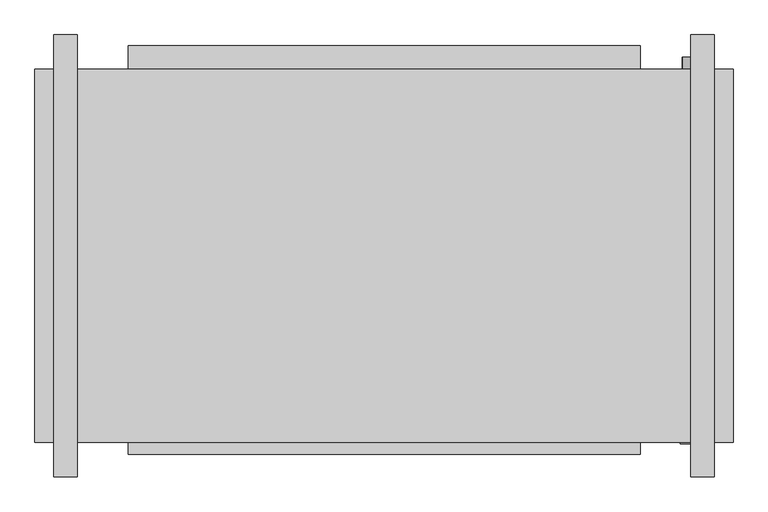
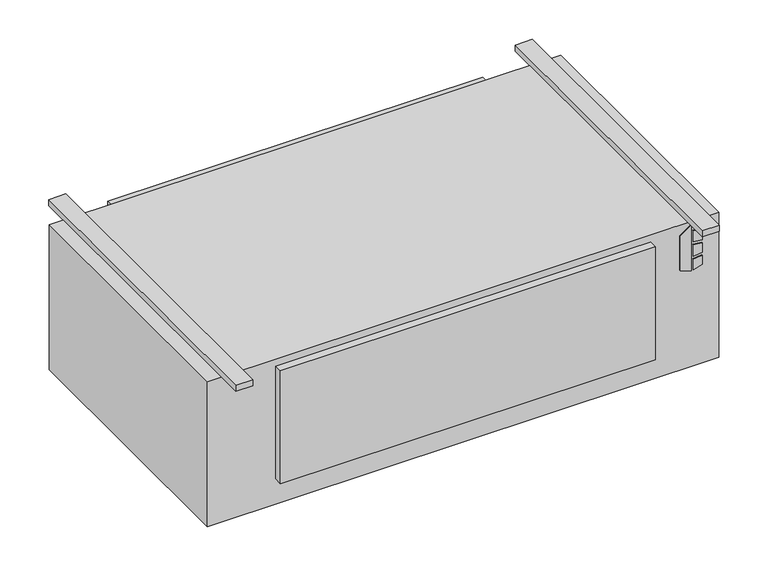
"""IFC4 building model written with IfcOpenShell, lengths in millimetres: proxy geometry, Concealed_High_Capacity_Horizontal_Cabinet_Fan_Coil_Unit_-_HXY_-_IEC_-_4-Pipe_RH_2022 : Size 18 - 277v/60Hz/1Ph - 6/2 Coil."""

import ifcopenshell
import ifcopenshell.guid

model = None  # the IFC model being written
_history = None  # IfcOwnerHistory: only IFC2X3 demands one
_inside = {}  # id of a spatial element -> (the spatial element, [elements in it])
_under = {}  # id of a project, library or spatial element -> (it, [spatial elements below it])
_declared = {}  # id of a project -> (the project, [libraries it declares])
_typed = {}  # id of a type object -> (the type object, [elements of that type])
_made_of = {}  # id of a material, layer set ... -> (it, [elements and type objects made of it])


def new_model(schema):
    """Start an empty IFC model of exactly this schema.

    Asked for "IFC4X3", IfcOpenShell would pick the latest addendum, in which some entities
    have other attributes; the version numbers below select the first issue.
    IFC2X3 requires an IfcOwnerHistory on every rooted entity: one is made here for all.
    """
    global model, _history
    if schema == "IFC4X3":
        model = ifcopenshell.file(schema_version=(4, 3, 0, 0))
    else:
        model = ifcopenshell.file(schema=schema)
    _inside.clear()
    _under.clear()
    _declared.clear()
    _typed.clear()
    _made_of.clear()
    _history = None
    if model.schema == "IFC2X3":
        org = make("IfcOrganization", Name="unknown")
        user = make(
            "IfcPersonAndOrganization",
            ThePerson=make("IfcPerson", FamilyName="unknown"),
            TheOrganization=org,
        )
        app = make(
            "IfcApplication",
            ApplicationDeveloper=org,
            Version="unknown",
            ApplicationFullName="unknown",
            ApplicationIdentifier="unknown",
        )
        _history = make(
            "IfcOwnerHistory",
            OwningUser=user,
            OwningApplication=app,
            ChangeAction="ADDED",
            CreationDate=0,
        )
    return model


def make(cls, **values):
    """One entity of the class cls with the attributes given. An attribute that is None is left unset."""
    return model.create_entity(
        cls, **{name: value for name, value in values.items() if value is not None}
    )


def rooted(cls, **values):
    """An entity with a GlobalId (a new one), such as an element, a storey or a relation."""
    return make(cls, GlobalId=ifcopenshell.guid.new(), OwnerHistory=_history, **values)


def si_unit(unit_type, name, prefix=None):
    """IfcSIUnit, for example si_unit("LENGTHUNIT", "METRE", prefix="MILLI")."""
    return make("IfcSIUnit", UnitType=unit_type, Prefix=prefix, Name=name)


def assignment(units):
    """IfcUnitAssignment: the units of a project."""
    return None if units is None else make("IfcUnitAssignment", Units=units)


def point(xyz):
    """IfcCartesianPoint."""
    return None if xyz is None else make("IfcCartesianPoint", Coordinates=xyz)


def direction(xyz):
    """IfcDirection."""
    return None if xyz is None else make("IfcDirection", DirectionRatios=xyz)


def frame(location, z_axis=None, x_axis=None):
    """IfcAxis2Placement3D, a coordinate frame: its origin and axes. An axis left out is left unset."""
    return make(
        "IfcAxis2Placement3D",
        Location=point(location),
        Axis=direction(z_axis),
        RefDirection=direction(x_axis),
    )


def frame_2d(location, x_axis=None):
    """IfcAxis2Placement2D, a coordinate frame in the plane: its origin and x axis."""
    return make(
        "IfcAxis2Placement2D", Location=point(location), RefDirection=direction(x_axis)
    )


def origin():
    """The frame at (0, 0, 0) with its axes left unset."""
    return frame((0.0, 0.0, 0.0))


def origin_with_axes():
    """The frame at (0, 0, 0) with the z axis (0, 0, 1) and the x axis (1, 0, 0) written out."""
    return frame((0.0, 0.0, 0.0), z_axis=(0.0, 0.0, 1.0), x_axis=(1.0, 0.0, 0.0))


def place(relative_to, where):
    """IfcLocalPlacement: puts the frame where relative to a parent placement (None: the world)."""
    return make(
        "IfcLocalPlacement", PlacementRelTo=relative_to, RelativePlacement=where
    )


def context(
    kind, dimensions, precision=None, world=None, true_north=None, identifier=None
):
    """IfcGeometricRepresentationContext, for example the 3D "Model" context."""
    return make(
        "IfcGeometricRepresentationContext",
        ContextIdentifier=identifier,
        ContextType=kind,
        CoordinateSpaceDimension=dimensions,
        Precision=precision,
        WorldCoordinateSystem=world,
        TrueNorth=true_north,
    )


def project(units=None, contexts=None):
    """IfcProject with its units and contexts."""
    return rooted(
        "IfcProject",
        Name="project",
        RepresentationContexts=contexts,
        UnitsInContext=assignment(units),
    )


def spatial(cls, under=None, at=None, **own):
    """A site, building, storey or space (cls), placed at a placement, below another one or the project."""
    s = rooted(cls, ObjectPlacement=at, **own)
    if under is not None:
        _under.setdefault(under.id(), (under, []))[1].append(s)
    return s


def polyline(points):
    """IfcPolyline through the points."""
    return make("IfcPolyline", Points=[point(p) for p in points])


def circle_curve(where, radius):
    """IfcCircle in the frame where."""
    return make("IfcCircle", Position=where, Radius=radius)


def trimmed(basis, trim1, trim2, sense, master):
    """IfcTrimmedCurve: the piece of a basis curve between two trims."""
    return make(
        "IfcTrimmedCurve",
        BasisCurve=basis,
        Trim1=trim1,
        Trim2=trim2,
        SenseAgreement=sense,
        MasterRepresentation=master,
    )


def segment(curve, same_sense, transition):
    """IfcCompositeCurveSegment."""
    return make(
        "IfcCompositeCurveSegment",
        Transition=transition,
        SameSense=same_sense,
        ParentCurve=curve,
    )


def composite_curve(segments, self_intersect=None):
    """IfcCompositeCurve: segments joined end to end."""
    return make("IfcCompositeCurve", Segments=segments, SelfIntersect=self_intersect)


def outline(outer, holes=None, kind="AREA"):
    """IfcArbitraryClosedProfileDef: a profile drawn as a closed curve; with holes, ...WithVoids."""
    if holes is None:
        return make("IfcArbitraryClosedProfileDef", ProfileType=kind, OuterCurve=outer)
    return make(
        "IfcArbitraryProfileDefWithVoids",
        ProfileType=kind,
        OuterCurve=outer,
        InnerCurves=holes,
    )


def extrude(swept, where, along, depth):
    """IfcExtrudedAreaSolid: the profile swept, set in the frame where, extruded along a direction by depth."""
    return make(
        "IfcExtrudedAreaSolid",
        SweptArea=swept,
        Position=where,
        ExtrudedDirection=direction(along),
        Depth=depth,
    )


def shape(context_of_items, identifier, shape_type, items):
    """IfcShapeRepresentation: the items that make up one representation, for example the "Body"."""
    return make(
        "IfcShapeRepresentation",
        ContextOfItems=context_of_items,
        RepresentationIdentifier=identifier,
        RepresentationType=shape_type,
        Items=items,
    )


def source(mapping_origin, context_of_items, identifier, shape_type, items):
    """IfcRepresentationMap: a shape defined once, which mapped items show again and again."""
    return make(
        "IfcRepresentationMap",
        MappingOrigin=mapping_origin,
        MappedRepresentation=shape(context_of_items, identifier, shape_type, items),
    )


def transform(
    local_origin,
    x_axis=None,
    y_axis=None,
    z_axis=None,
    scale=None,
    scale2=None,
    scale3=None,
    uniform=True,
):
    """IfcCartesianTransformationOperator3D, or its non-uniform kind. x_axis, y_axis, z_axis: its Axis1, 2, 3."""
    if uniform:
        return make(
            "IfcCartesianTransformationOperator3D",
            Axis1=direction(x_axis),
            Axis2=direction(y_axis),
            LocalOrigin=point(local_origin),
            Scale=scale,
            Axis3=direction(z_axis),
        )
    return make(
        "IfcCartesianTransformationOperator3DnonUniform",
        Axis1=direction(x_axis),
        Axis2=direction(y_axis),
        LocalOrigin=point(local_origin),
        Scale=scale,
        Axis3=direction(z_axis),
        Scale2=scale2,
        Scale3=scale3,
    )


def mapped(mapping_source, mapping_target):
    """IfcMappedItem: shows the shape of a source again, moved by a transform."""
    return make(
        "IfcMappedItem", MappingSource=mapping_source, MappingTarget=mapping_target
    )


def made_of(thing, what):
    """Note that an element or type object is made of a material, layer set ...; save() writes the relation."""
    if what is not None:
        _made_of.setdefault(what.id(), (what, []))[1].append(thing)
    return thing


def element(
    cls,
    number,
    at=None,
    inside=None,
    cuts=None,
    type_object=None,
    material=None,
    context=None,
    identifier="Body",
    shape_type=None,
    held_by="IfcProductDefinitionShape",
    body=None,
    shapes=None,
    **own,
):
    """One element of the class cls, such as IfcWall. Its Tag is "e" and its number.

    at: its placement. inside: the storey or other place that contains it. cuts: it is an
    opening in that element (IfcRelVoidsElement). A single representation is given by context,
    identifier, shape_type and body (its items); several are given by shapes. held_by: the class
    of the entity that holds the representations. save() writes the other relations.
    """
    e = rooted(cls, Tag="e%d" % number, ObjectPlacement=at, **own)
    if body is not None:
        shapes = [shape(context, identifier, shape_type, body)]
    if shapes is not None:
        e.Representation = make(held_by, Representations=shapes)
    if inside is not None:
        _inside.setdefault(inside.id(), (inside, []))[1].append(e)
    if cuts is not None:
        rooted(
            "IfcRelVoidsElement", RelatingBuildingElement=cuts, RelatedOpeningElement=e
        )
    if type_object is not None:
        _typed.setdefault(type_object.id(), (type_object, []))[1].append(e)
    return made_of(e, material)


def aggregate(whole, parts):
    """IfcRelAggregates: a whole, such as a stair, and the parts it consists of."""
    return rooted("IfcRelAggregates", RelatingObject=whole, RelatedObjects=parts)


def save(model, path):
    """Write the relations noted so far, then the file.

    IfcRelAggregates (storeys below a building ...), IfcRelContainedInSpatialStructure (elements
    in a storey), IfcRelDefinesByType, IfcRelAssociatesMaterial and IfcRelDeclares: one each for
    every whole, place, type object, material and project.
    """
    for whole, parts in _under.values():
        aggregate(whole, parts)
    for where, things in _inside.values():
        rooted(
            "IfcRelContainedInSpatialStructure",
            RelatedElements=things,
            RelatingStructure=where,
        )
    for kind, things in _typed.values():
        rooted("IfcRelDefinesByType", RelatedObjects=things, RelatingType=kind)
    for what, things in _made_of.values():
        rooted("IfcRelAssociatesMaterial", RelatedObjects=things, RelatingMaterial=what)
    for by, libraries in _declared.values():
        rooted("IfcRelDeclares", RelatingContext=by, RelatedDefinitions=libraries)
    model.write(path)


def mechanical_equipment_1356e08d(model_context):
    return source(origin(), model_context, "Body", "SweptSolid", [
        extrude(outline(polyline([(-142.4519297, 798.5868862), (-152.4, 830.7602728), (-10.2290756, 830.7602728), (-33.2510817, 798.5868862), (-142.4519297, 798.5868862)])), frame((0.0, -649.2875, 0.0), z_axis=(0.0, 1.0, 0.0), x_axis=(0.0, 0.0, 1.0)), (0.0, 0.0, 1.0), 3.175),
        extrude(outline(polyline([(-63.4526443, 837.5186058), (-66.6550368, 863.6), (-37.4261958, 863.6), (-29.3617807, 837.5186058), (-63.4526443, 837.5186058)])), frame((0.0, -649.2875, 0.0), z_axis=(0.0, 1.0, 0.0), x_axis=(0.0, 0.0, 1.0)), (0.0, 0.0, 1.0), 3.175),
        extrude(outline(polyline([(-115.3161712, 863.6), (-118.9816721, 837.5186058), (-152.4, 837.5186058), (-143.7657628, 863.6), (-115.3161712, 863.6)])), frame((0.0, -649.2875, 0.0), z_axis=(0.0, 1.0, 0.0), x_axis=(0.0, 0.0, 1.0)), (0.0, 0.0, 1.0), 3.175),
        extrude(outline(polyline([(-76.0010097, 863.6), (-73.7191834, 837.5186058), (-109.6567319, 837.5186058), (-106.9154669, 863.6), (-76.0010097, 863.6)])), frame((0.0, -649.2875, 0.0), z_axis=(0.0, 1.0, 0.0), x_axis=(0.0, 0.0, 1.0)), (0.0, 0.0, 1.0), 3.175),
        extrude(outline(composite_curve([segment(trimmed(circle_curve(frame_2d((-406.4, 812.8)), 9.525), [point((-406.4, 803.275))], [point((-406.4, 822.325))], False, "CARTESIAN"), True, "CONTINUOUS"), segment(trimmed(circle_curve(frame_2d((-406.4, 812.8)), 9.525), [point((-406.4, 822.325))], [point((-406.4, 803.275))], False, "CARTESIAN"), True, "CONTINUOUS")], self_intersect=False)), frame((0.0, 169.8625, 0.0), z_axis=(0.0, 1.0, 0.0), x_axis=(0.0, 0.0, 1.0)), (0.0, 0.0, 1.0), 25.4),
        extrude(outline(composite_curve([segment(trimmed(circle_curve(frame_2d((-330.2, 812.8)), 7.9375), [point((-330.2, 804.8625))], [point((-330.2, 820.7375))], False, "CARTESIAN"), True, "CONTINUOUS"), segment(trimmed(circle_curve(frame_2d((-330.2, 812.8)), 7.9375), [point((-330.2, 820.7375))], [point((-330.2, 804.8625))], False, "CARTESIAN"), True, "CONTINUOUS")], self_intersect=False)), frame((0.0, 169.8625, 0.0), z_axis=(0.0, 1.0, 0.0), x_axis=(0.0, 0.0, 1.0)), (0.0, 0.0, 1.0), 25.4),
        extrude(outline(composite_curve([segment(trimmed(circle_curve(frame_2d((-254.0, 812.8)), 7.9375), [point((-254.0, 804.8625))], [point((-254.0, 820.7375))], False, "CARTESIAN"), True, "CONTINUOUS"), segment(trimmed(circle_curve(frame_2d((-254.0, 812.8)), 7.9375), [point((-254.0, 820.7375))], [point((-254.0, 804.8625))], False, "CARTESIAN"), True, "CONTINUOUS")], self_intersect=False)), frame((0.0, 169.8625, 0.0), z_axis=(0.0, 1.0, 0.0), x_axis=(0.0, 0.0, 1.0)), (0.0, 0.0, 1.0), 25.4),
        extrude(outline(composite_curve([segment(trimmed(circle_curve(frame_2d((-177.8, 812.8)), 7.9375), [point((-177.8, 804.8625))], [point((-177.8, 820.7375))], False, "CARTESIAN"), True, "CONTINUOUS"), segment(trimmed(circle_curve(frame_2d((-177.8, 812.8)), 7.9375), [point((-177.8, 820.7375))], [point((-177.8, 804.8625))], False, "CARTESIAN"), True, "CONTINUOUS")], self_intersect=False)), frame((0.0, 169.8625, 0.0), z_axis=(0.0, 1.0, 0.0), x_axis=(0.0, 0.0, 1.0)), (0.0, 0.0, 1.0), 25.4),
        extrude(outline(composite_curve([segment(trimmed(circle_curve(frame_2d((-101.6, 812.8)), 7.9375), [point((-101.6, 804.8625))], [point((-101.6, 820.7375))], False, "CARTESIAN"), True, "CONTINUOUS"), segment(trimmed(circle_curve(frame_2d((-101.6, 812.8)), 7.9375), [point((-101.6, 820.7375))], [point((-101.6, 804.8625))], False, "CARTESIAN"), True, "CONTINUOUS")], self_intersect=False)), frame((0.0, 169.8625, 0.0), z_axis=(0.0, 1.0, 0.0), x_axis=(0.0, 0.0, 1.0)), (0.0, 0.0, 1.0), 25.4),
        extrude(outline(polyline([(914.4, 169.8625), (914.4, -646.1125), (-609.6, -646.1125), (-609.6, 169.8625), (914.4, 169.8625)])), frame((0.0, 0.0, -457.2), z_axis=(0.0, 0.0, 1.0), x_axis=(1.0, 0.0, 0.0)), (0.0, 0.0, 1.0), 457.2),
        extrude(outline(polyline([(-406.4, 220.6625), (711.2, 220.6625), (711.2, 169.8625), (-406.4, 169.8625), (-406.4, 220.6625)])), frame((0.0, 0.0, -377.825), z_axis=(0.0, 0.0, 1.0), x_axis=(1.0, 0.0, 0.0)), (0.0, 0.0, 1.0), 349.25),
        extrude(outline(polyline([(-517.525, 244.475), (-517.525, -720.725), (-568.325, -720.725), (-568.325, 244.475), (-517.525, 244.475)])), origin_with_axes(), (0.0, 0.0, 1.0), 19.05),
        extrude(outline(polyline([(873.125, 244.475), (873.125, -720.725), (822.325, -720.725), (822.325, 244.475), (873.125, 244.475)])), origin_with_axes(), (0.0, 0.0, 1.0), 19.05),
        extrude(outline(polyline([(711.2, -671.5125), (-406.4, -671.5125), (-406.4, -646.1125), (711.2, -646.1125), (711.2, -671.5125)])), frame((0.0, 0.0, -377.825), z_axis=(0.0, 0.0, 1.0), x_axis=(1.0, 0.0, 0.0)), (0.0, 0.0, 1.0), 355.6),
    ])


if __name__ == "__main__":
    model = new_model("IFC4")
    model_context = context("Model", 3, world=origin())
    ifc_project = project(units=[si_unit("LENGTHUNIT", "METRE", prefix="MILLI")], contexts=[model_context])
    site = spatial("IfcSite", under=ifc_project)
    building = spatial("IfcBuilding", under=site)
    placement = place(None, origin())
    mechanical_equipment_shape = mechanical_equipment_1356e08d(model_context)
    element("IfcBuildingElementProxy", 1, Name="Concealed_High_Capacity_Horizontal_Cabinet_Fan_Coil_Unit_-_HXY_-_IEC_-_4-Pipe_RH_2022 : Size 18 - 277v/60Hz/1Ph - 6/2 Coil", ObjectType="Concealed_High_Capacity_Horizontal_Cabinet_Fan_Coil_Unit_-_HXY_-_IEC_-_4-Pipe_RH_2022 : Size 18 - 277v/60Hz/1Ph - 6/2 Coil", at=placement, inside=building, context=model_context, shape_type="MappedRepresentation", body=[
        mapped(mechanical_equipment_shape, transform((0.0, 0.0, 0.0), x_axis=(1.0, 0.0, 0.0), y_axis=(0.0, 1.0, 0.0), z_axis=(0.0, 0.0, 1.0))),
    ])
    save(model, "model.ifc")
